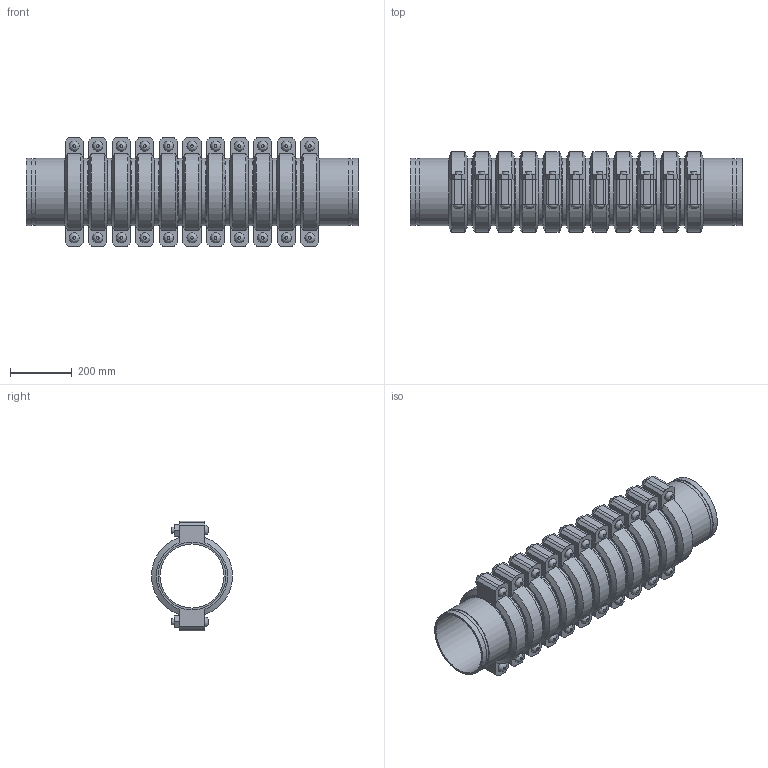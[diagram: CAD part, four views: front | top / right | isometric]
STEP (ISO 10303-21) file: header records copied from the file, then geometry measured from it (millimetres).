
FILE_DESCRIPTION(/* description */ ('VIC SS EXPANSION JOINT 11 COUPLINGS EXPANDED STYLE 155P (OGS) (POTABLE WATER) ','CAx-IF Rec.Pracs.---Representation and Presentation of Product Manufacturing Information (PMI)---4.0---2014-10-13'),/* implementation_level */ '2;1');
FILE_NAME(/* name */ 'C:\Users\kkamble\AppData\Roaming\Autodesk\ApplicationPlugins\Victaulic.Temp\A494\Victaulic_SS_Expansion Joint_Expanded_11 Couplings_Style 155P (OGS)-Potable Water_11 Coup_Expd_8 (200).stp',/* time_stamp */ '2021-07-16T16:46:30+05:00',/* author */ ('kkamble'),/* organization */ ('Victaulic'),/* preprocessor_version */ 'ST-DEVELOPER v17.2',/* originating_system */ 'Autodesk Inventor 2019',/* authorisation */ '');
FILE_SCHEMA (('AP242_MANAGED_MODEL_BASED_3D_ENGINEERING_MIM_LF { 1 0 10303 442 1 1 4 }'));
Length unit declared in the file: inch
Products named in the file (4): 155P-08.0; Nipple-08.0; Nipple-08.0_1; 075-08.0
Assembly tree (23 placements, depth 2):
  155P-08.0
    Nipple-08.0  x2
    Nipple-08.0_1  x10
    075-08.0  x11
Bounding box: 1073.15 x 261.72 x 354.84 mm (x, y, z)
Volume: 19047557.2 mm3; surface area: 3442566 mm2
Topology: 23 solids, 45 shells, 771 faces, 1823 edges, 1278 vertices
Faces by surface type: plane 468, cylinder 237, cone 44, bspline 22
Full cylindrical faces by diameter (mm): 19.05 x44, 21.209 x22, 206.985 x12, 212.725 x11, 214.401 x24, 219.075 x58
Entity records: 2888 total; most frequent: CARTESIAN_POINT 507, DIRECTION 489, ORIENTED_EDGE 386, AXIS2_PLACEMENT_3D 198, EDGE_CURVE 193, VERTEX_POINT 138, EDGE_LOOP 107, LINE 93
